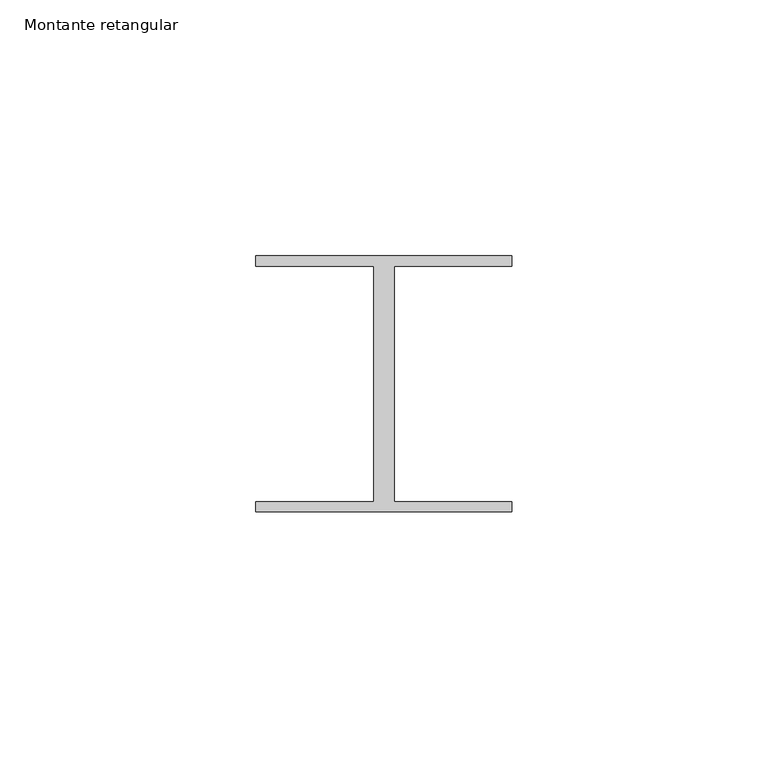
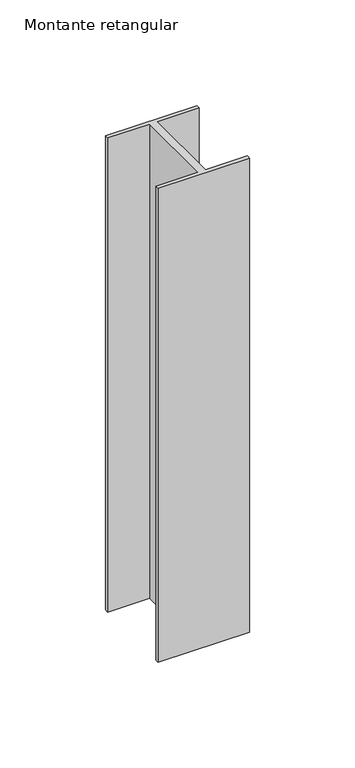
"""IFC4 building model written with IfcOpenShell, lengths in millimetres: member geometry, Montante retangular : FDE_MontanteVenezianaIndustrial_Intermediário_Ref50 (Alumínio Anodizado)."""

from ifc_helpers import new_model, si_unit, frame, origin, place, context, project, spatial, polyline, outline, extrude, source, transform, mapped, element, save


def montante_retangular_70ba8f4d(model_context):
    return source(origin(), model_context, "Body", "SweptSolid", [
        extrude(outline(polyline([(-25.0, 25.0), (25.0, 25.0), (25.0, 23.0), (2.0, 23.0), (2.0, -23.0), (25.0, -23.0), (25.0, -25.0), (-25.0, -25.0), (-25.0, -23.0), (-2.0, -23.0), (-2.0, 23.0), (-25.0, 23.0), (-25.0, 25.0)])), frame((0.0, 0.0, -274.0), z_axis=(0.0, 0.0, 1.0), x_axis=(1.0, 0.0, 0.0)), (0.0, 0.0, 1.0), 274.0),
    ])


if __name__ == "__main__":
    model = new_model("IFC4")
    model_context = context("Model", 3, world=origin())
    ifc_project = project(units=[si_unit("LENGTHUNIT", "METRE", prefix="MILLI")], contexts=[model_context])
    site = spatial("IfcSite", under=ifc_project)
    building = spatial("IfcBuilding", under=site)
    placement = place(None, origin())
    montante_retangular_shape = montante_retangular_70ba8f4d(model_context)
    element("IfcMember", 1, ObjectType="Montante retangular : FDE_MontanteVenezianaIndustrial_Intermediário_Ref50 (Alumínio Anodizado)", at=placement, inside=building, context=model_context, shape_type="MappedRepresentation", body=[
        mapped(montante_retangular_shape, transform((0.0, 0.0, 0.0), x_axis=(1.0, 0.0, 0.0), y_axis=(0.0, 1.0, 0.0), z_axis=(0.0, 0.0, 1.0))),
    ])
    save(model, "model.ifc")
